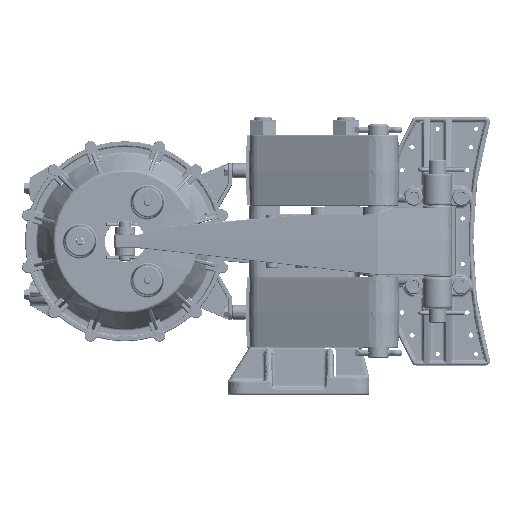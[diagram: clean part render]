
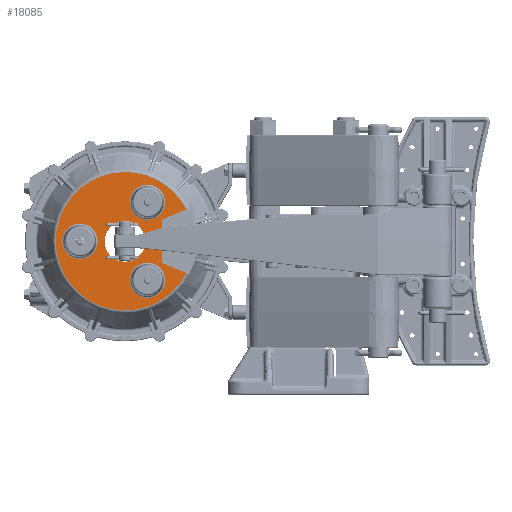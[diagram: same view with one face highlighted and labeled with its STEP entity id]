
A CAD part, top view. The second image highlights one B-rep face of the part: STEP entity #18085.
In plain terms, the highlighted planar face has unit normal (0, 0, 1).
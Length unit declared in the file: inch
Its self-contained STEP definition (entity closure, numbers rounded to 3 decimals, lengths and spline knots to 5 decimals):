
#459 = CARTESIAN_POINT ( 'NONE',  ( -10.72417, -0.86273, 2.775 ) ) ;
#2125 = AXIS2_PLACEMENT_3D ( 'NONE', #118045, #264507, #40722 ) ;
#3436 = ORIENTED_EDGE ( 'NONE', *, *, #305739, .T. ) ;
#3814 = VERTEX_POINT ( 'NONE', #81811 ) ;
#3894 = CARTESIAN_POINT ( 'NONE',  ( -9.77167, 1.64978, 2.775 ) ) ;
#5019 = DIRECTION ( 'NONE',  ( 0., 1., 0. ) ) ;
#11622 = CARTESIAN_POINT ( 'NONE',  ( -7.7959, 0., 2.775 ) ) ;
#16524 = AXIS2_PLACEMENT_3D ( 'NONE', #24567, #122806, #220981 ) ;
#18085 = ADVANCED_FACE ( 'NONE', ( #307808, #254753, #34086, #87106, #32539 ), #232116, .F. ) ;
#19656 = AXIS2_PLACEMENT_3D ( 'NONE', #11622, #109823, #306169 ) ;
#21327 = DIRECTION ( 'NONE',  ( 0., 0., -1. ) ) ;
#23064 = VERTEX_POINT ( 'NONE', #271280 ) ;
#24567 = CARTESIAN_POINT ( 'NONE',  ( -9.77167, 1.64978, 2.775 ) ) ;
#25541 = VERTEX_POINT ( 'NONE', #281214 ) ;
#31472 = ORIENTED_EDGE ( 'NONE', *, *, #127009, .T. ) ;
#32258 = DIRECTION ( 'NONE',  ( 0., 0., -1. ) ) ;
#32539 = FACE_OUTER_BOUND ( 'NONE', #47929, .T. ) ;
#33799 = CARTESIAN_POINT ( 'NONE',  ( -9.77167, -1.64978, 2.775 ) ) ;
#34086 = FACE_BOUND ( 'NONE', #308498, .T. ) ;
#34526 = VERTEX_POINT ( 'NONE', #181393 ) ;
#36393 = AXIS2_PLACEMENT_3D ( 'NONE', #210405, #89479, #236074 ) ;
#38585 = CIRCLE ( 'NONE', #2125, 0.74773 ) ;
#39144 = DIRECTION ( 'NONE',  ( 0., 0., -1. ) ) ;
#40380 = VERTEX_POINT ( 'NONE', #262735 ) ;
#40722 = DIRECTION ( 'NONE',  ( 0., 1., 0. ) ) ;
#40938 = DIRECTION ( 'NONE',  ( 0., 1., 0. ) ) ;
#44477 = VERTEX_POINT ( 'NONE', #132435 ) ;
#44776 = VECTOR ( 'NONE', #137202, 39.37008 ) ;
#47929 = EDGE_LOOP ( 'NONE', ( #218476, #190454, #124154, #145817, #56360, #194254 ) ) ;
#48651 = ORIENTED_EDGE ( 'NONE', *, *, #251845, .T. ) ;
#50884 = EDGE_CURVE ( 'NONE', #3814, #210708, #155457, .T. ) ;
#55121 = ORIENTED_EDGE ( 'NONE', *, *, #142086, .T. ) ;
#56360 = ORIENTED_EDGE ( 'NONE', *, *, #271188, .T. ) ;
#63220 = CARTESIAN_POINT ( 'NONE',  ( -12.62917, 0., 2.775 ) ) ;
#69722 = AXIS2_PLACEMENT_3D ( 'NONE', #33799, #32258, #5019 ) ;
#71028 = AXIS2_PLACEMENT_3D ( 'NONE', #63220, #39144, #285520 ) ;
#76817 = CARTESIAN_POINT ( 'NONE',  ( -9.16417, -0.915, 2.775 ) ) ;
#79072 = AXIS2_PLACEMENT_3D ( 'NONE', #119630, #241948, #214691 ) ;
#79335 = DIRECTION ( 'NONE',  ( 0., 0., -1. ) ) ;
#81687 = CARTESIAN_POINT ( 'NONE',  ( -9.16417, 2.78897, 2.775 ) ) ;
#81742 = CIRCLE ( 'NONE', #287530, 0.74773 ) ;
#81811 = CARTESIAN_POINT ( 'NONE',  ( -9.77167, 2.39751, 2.775 ) ) ;
#87106 = FACE_BOUND ( 'NONE', #142746, .T. ) ;
#89479 = DIRECTION ( 'NONE',  ( 0., 0., -1. ) ) ;
#100625 = CIRCLE ( 'NONE', #69722, 0.74773 ) ;
#100754 = DIRECTION ( 'NONE',  ( 0., 0., 1. ) ) ;
#104035 = CIRCLE ( 'NONE', #222123, 2.92827 ) ;
#106985 = EDGE_CURVE ( 'NONE', #286047, #44477, #179069, .T. ) ;
#107678 = CARTESIAN_POINT ( 'NONE',  ( -7.22263, -1.71921, 2.775 ) ) ;
#107951 = ORIENTED_EDGE ( 'NONE', *, *, #248343, .T. ) ;
#109273 = LINE ( 'NONE', #107678, #174694 ) ;
#109823 = DIRECTION ( 'NONE',  ( 0., 0., -1. ) ) ;
#111109 = DIRECTION ( 'NONE',  ( 0., 0., 1. ) ) ;
#111748 = AXIS2_PLACEMENT_3D ( 'NONE', #128931, #111109, #231821 ) ;
#114873 = DIRECTION ( 'NONE',  ( 0., 1., 0. ) ) ;
#118045 = CARTESIAN_POINT ( 'NONE',  ( -12.62917, 0., 2.775 ) ) ;
#119630 = CARTESIAN_POINT ( 'NONE',  ( -10.72417, 0., 2.775 ) ) ;
#121246 = VERTEX_POINT ( 'NONE', #76817 ) ;
#122806 = DIRECTION ( 'NONE',  ( 0., 0., -1. ) ) ;
#122818 = EDGE_CURVE ( 'NONE', #34526, #25541, #218073, .T. ) ;
#124154 = ORIENTED_EDGE ( 'NONE', *, *, #236322, .T. ) ;
#127009 = EDGE_CURVE ( 'NONE', #314598, #186393, #215060, .T. ) ;
#128550 = DIRECTION ( 'NONE',  ( 0., -1., 0. ) ) ;
#128931 = CARTESIAN_POINT ( 'NONE',  ( -10.72417, 0., 2.775 ) ) ;
#132435 = CARTESIAN_POINT ( 'NONE',  ( -8.1236, 1.34602, 2.775 ) ) ;
#137202 = DIRECTION ( 'NONE',  ( 0.924, 0.383, 0. ) ) ;
#139047 = VERTEX_POINT ( 'NONE', #169891 ) ;
#140115 = EDGE_LOOP ( 'NONE', ( #31472, #48651 ) ) ;
#142086 = EDGE_CURVE ( 'NONE', #204407, #139047, #263499, .T. ) ;
#142746 = EDGE_LOOP ( 'NONE', ( #159002, #107951 ) ) ;
#145817 = ORIENTED_EDGE ( 'NONE', *, *, #122818, .T. ) ;
#147725 = CIRCLE ( 'NONE', #111748, 2.92827 ) ;
#154449 = CARTESIAN_POINT ( 'NONE',  ( -12.62917, 0.74773, 2.775 ) ) ;
#155457 = CIRCLE ( 'NONE', #16524, 0.74773 ) ;
#157200 = DIRECTION ( 'NONE',  ( 0., 0., -1. ) ) ;
#159002 = ORIENTED_EDGE ( 'NONE', *, *, #230769, .T. ) ;
#163486 = CARTESIAN_POINT ( 'NONE',  ( -10.72417, 0., 2.775 ) ) ;
#169891 = CARTESIAN_POINT ( 'NONE',  ( -10.72417, 0.86273, 2.775 ) ) ;
#174694 = VECTOR ( 'NONE', #183349, 39.37008 ) ;
#176354 = ORIENTED_EDGE ( 'NONE', *, *, #307942, .T. ) ;
#179069 = LINE ( 'NONE', #257837, #44776 ) ;
#181393 = CARTESIAN_POINT ( 'NONE',  ( -10.72417, -2.92827, 2.775 ) ) ;
#183349 = DIRECTION ( 'NONE',  ( -0.924, 0.383, 0. ) ) ;
#186393 = VERTEX_POINT ( 'NONE', #235965 ) ;
#190454 = ORIENTED_EDGE ( 'NONE', *, *, #284438, .T. ) ;
#194254 = ORIENTED_EDGE ( 'NONE', *, *, #201094, .F. ) ;
#201094 = EDGE_CURVE ( 'NONE', #286047, #121246, #204165, .T. ) ;
#204165 = LINE ( 'NONE', #81687, #250310 ) ;
#204407 = VERTEX_POINT ( 'NONE', #459 ) ;
#204699 = AXIS2_PLACEMENT_3D ( 'NONE', #3894, #79335, #303194 ) ;
#208066 = ORIENTED_EDGE ( 'NONE', *, *, #50884, .T. ) ;
#210405 = CARTESIAN_POINT ( 'NONE',  ( -10.72417, 0., 2.775 ) ) ;
#210708 = VERTEX_POINT ( 'NONE', #241659 ) ;
#214691 = DIRECTION ( 'NONE',  ( 0., -1., 0. ) ) ;
#215060 = CIRCLE ( 'NONE', #71028, 0.74773 ) ;
#218073 = CIRCLE ( 'NONE', #79072, 2.92827 ) ;
#218476 = ORIENTED_EDGE ( 'NONE', *, *, #106985, .T. ) ;
#220981 = DIRECTION ( 'NONE',  ( 0., 1., 0. ) ) ;
#222123 = AXIS2_PLACEMENT_3D ( 'NONE', #245722, #100754, #223109 ) ;
#223109 = DIRECTION ( 'NONE',  ( 0., -1., 0. ) ) ;
#230769 = EDGE_CURVE ( 'NONE', #274863, #40380, #100625, .T. ) ;
#231779 = CIRCLE ( 'NONE', #36393, 0.86273 ) ;
#231821 = DIRECTION ( 'NONE',  ( 0., -1., 0. ) ) ;
#232116 = PLANE ( 'NONE',  #19656 ) ;
#235965 = CARTESIAN_POINT ( 'NONE',  ( -12.62917, -0.74773, 2.775 ) ) ;
#236074 = DIRECTION ( 'NONE',  ( 0., 1., 0. ) ) ;
#236322 = EDGE_CURVE ( 'NONE', #23064, #34526, #104035, .T. ) ;
#241659 = CARTESIAN_POINT ( 'NONE',  ( -9.77167, 0.90204, 2.775 ) ) ;
#241948 = DIRECTION ( 'NONE',  ( 0., 0., 1. ) ) ;
#245722 = CARTESIAN_POINT ( 'NONE',  ( -10.72417, 0., 2.775 ) ) ;
#248343 = EDGE_CURVE ( 'NONE', #40380, #274863, #81742, .T. ) ;
#250310 = VECTOR ( 'NONE', #128550, 39.37008 ) ;
#251845 = EDGE_CURVE ( 'NONE', #186393, #314598, #38585, .T. ) ;
#254753 = FACE_BOUND ( 'NONE', #140115, .T. ) ;
#255765 = CARTESIAN_POINT ( 'NONE',  ( -9.16417, 0.915, 2.775 ) ) ;
#257837 = CARTESIAN_POINT ( 'NONE',  ( -7.22263, 1.71921, 2.775 ) ) ;
#262735 = CARTESIAN_POINT ( 'NONE',  ( -9.77167, -2.39751, 2.775 ) ) ;
#263499 = CIRCLE ( 'NONE', #299363, 0.86273 ) ;
#264507 = DIRECTION ( 'NONE',  ( 0., 0., -1. ) ) ;
#271188 = EDGE_CURVE ( 'NONE', #25541, #121246, #109273, .T. ) ;
#271280 = CARTESIAN_POINT ( 'NONE',  ( -10.72417, 2.92827, 2.775 ) ) ;
#274863 = VERTEX_POINT ( 'NONE', #275698 ) ;
#275698 = CARTESIAN_POINT ( 'NONE',  ( -9.77167, -0.90204, 2.775 ) ) ;
#281214 = CARTESIAN_POINT ( 'NONE',  ( -8.1236, -1.34602, 2.775 ) ) ;
#284438 = EDGE_CURVE ( 'NONE', #44477, #23064, #147725, .T. ) ;
#285520 = DIRECTION ( 'NONE',  ( 0., 1., 0. ) ) ;
#286047 = VERTEX_POINT ( 'NONE', #255765 ) ;
#287092 = CARTESIAN_POINT ( 'NONE',  ( -9.77167, -1.64978, 2.775 ) ) ;
#287530 = AXIS2_PLACEMENT_3D ( 'NONE', #287092, #21327, #114873 ) ;
#299363 = AXIS2_PLACEMENT_3D ( 'NONE', #163486, #157200, #40938 ) ;
#303194 = DIRECTION ( 'NONE',  ( 0., 1., 0. ) ) ;
#305739 = EDGE_CURVE ( 'NONE', #210708, #3814, #313404, .T. ) ;
#306169 = DIRECTION ( 'NONE',  ( 0., 1., 0. ) ) ;
#306496 = EDGE_LOOP ( 'NONE', ( #176354, #55121 ) ) ;
#307808 = FACE_BOUND ( 'NONE', #306496, .T. ) ;
#307942 = EDGE_CURVE ( 'NONE', #139047, #204407, #231779, .T. ) ;
#308498 = EDGE_LOOP ( 'NONE', ( #208066, #3436 ) ) ;
#313404 = CIRCLE ( 'NONE', #204699, 0.74773 ) ;
#314598 = VERTEX_POINT ( 'NONE', #154449 ) ;
